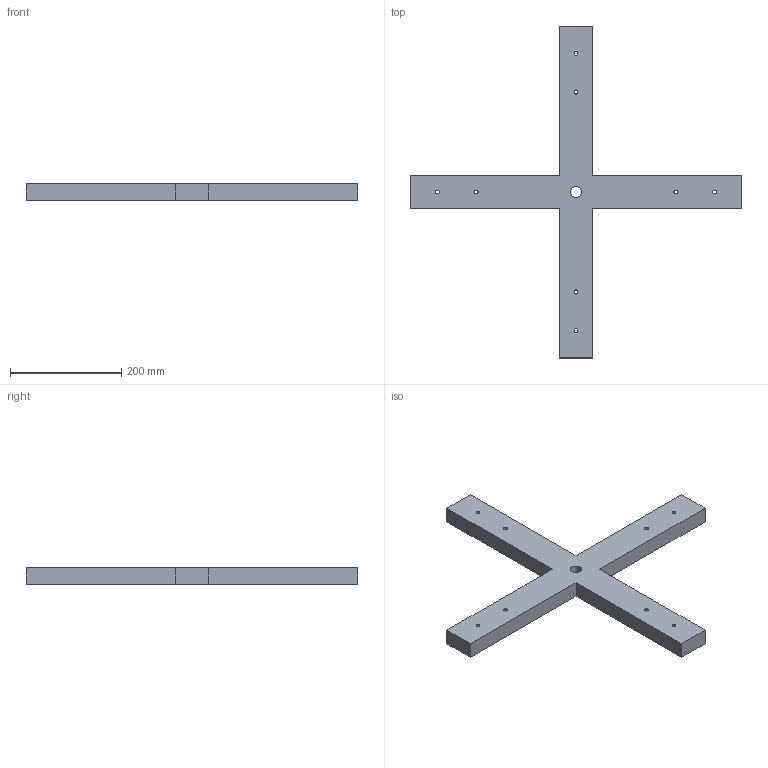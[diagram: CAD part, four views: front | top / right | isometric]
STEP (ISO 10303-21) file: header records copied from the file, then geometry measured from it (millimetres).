
FILE_DESCRIPTION( ( 'STEP AP214' ), '1' );
FILE_NAME( 'D:/Yug/2021/Delta/desk_and_office_organisation/QC/48535.stp', '2021-01-20T05:59:44', ( '' ), ( '' ), ' ', 'PARTsolutions', ' ' );
FILE_SCHEMA( ( 'AUTOMOTIVE_DESIGN { 1 0 10303 214 1 1 1 1 }' ) );
Length unit declared in the file: millimetre
Products named in the file (1): _48535
Bounding box: 598 x 598 x 30 mm (x, y, z)
Volume: 2026138.9 mm3; surface area: 213998.8 mm2
Topology: 1 solids, 1 shells, 23 faces, 63 edges, 42 vertices
Faces by surface type: plane 14, cylinder 9
Full cylindrical faces by diameter (mm): 7 x8, 20 x1
Entity records: 926 total; most frequent: CARTESIAN_POINT 120, DIRECTION 120, ORIENTED_EDGE 108, EDGE_CURVE 54, EDGE_LOOP 50, AXIS2_PLACEMENT_3D 42, VERTEX_POINT 42, LINE 36
